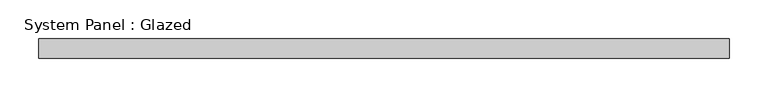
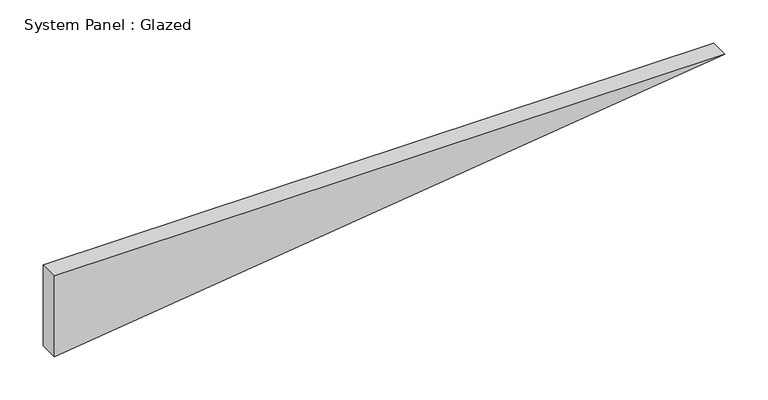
"""IFC4 building model written with IfcOpenShell, lengths in millimetres: plate geometry, System Panel : Glazed."""

from ifc_helpers import new_model, si_unit, frame, origin, place, context, project, spatial, polyline, outline, extrude, source, transform, mapped, element, save


def system_panel_glazed_5c028d10(model_context):
    return source(origin(), model_context, "Body", "SweptSolid", [
        extrude(outline(polyline([(114.0401693, -447.0878368), (0.0, -447.0878368), (114.0401693, 447.0878368), (114.0401693, -447.0878368)])), frame((0.0, 19.05, 0.0), z_axis=(0.0, 1.0, 0.0), x_axis=(0.0, 0.0, 1.0)), (0.0, 0.0, 1.0), 25.4),
    ])


if __name__ == "__main__":
    model = new_model("IFC4")
    model_context = context("Model", 3, world=origin())
    ifc_project = project(units=[si_unit("LENGTHUNIT", "METRE", prefix="MILLI")], contexts=[model_context])
    site = spatial("IfcSite", under=ifc_project)
    building = spatial("IfcBuilding", under=site)
    placement = place(None, origin())
    system_panel_glazed_shape = system_panel_glazed_5c028d10(model_context)
    element("IfcPlate", 1, ObjectType="System Panel : Glazed", at=placement, inside=building, context=model_context, shape_type="MappedRepresentation", body=[
        mapped(system_panel_glazed_shape, transform((0.0, 0.0, 0.0), x_axis=(1.0, 0.0, 0.0), y_axis=(0.0, 1.0, 0.0), z_axis=(0.0, 0.0, 1.0))),
    ])
    save(model, "model.ifc")
